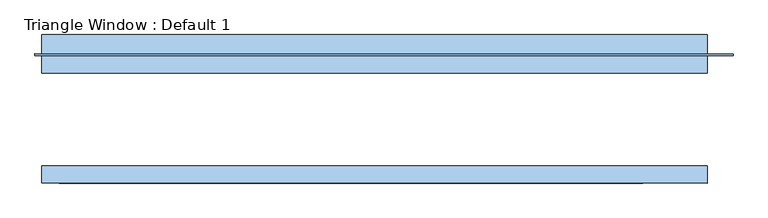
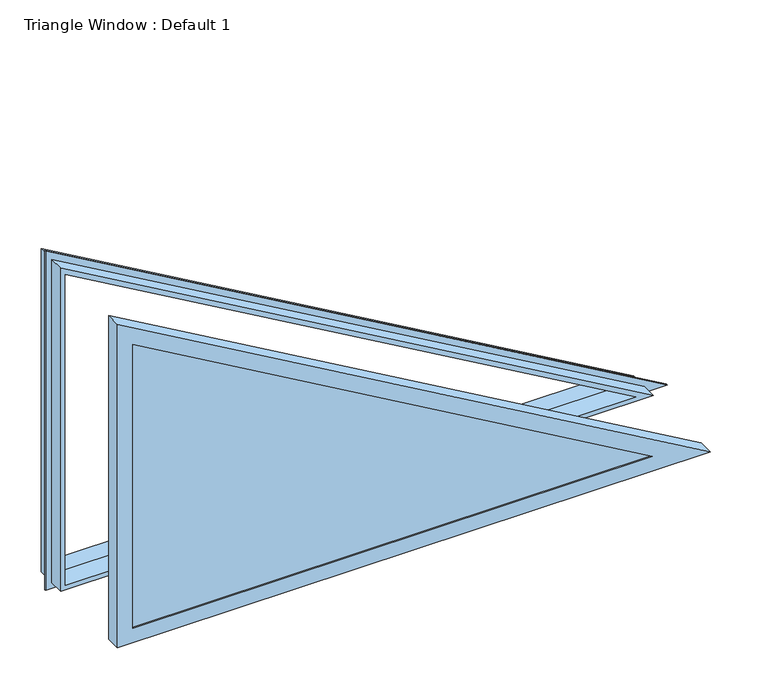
"""IFC4 building model written with IfcOpenShell, lengths in millimetres: window geometry, Triangle Window : Default 1."""

from ifc_helpers import new_model, si_unit, frame, origin, place, context, project, spatial, polyline, outline, extrude, faceted_brep, source, transform, mapped, element, save


def triangle_window_default_1_643964ed(model_context):
    return source(origin(), model_context, "Body", "SolidModel", [
        extrude(outline(polyline([(1563.3128351, -730.25), (946.15, -730.25), (946.15, 338.7073869), (1563.3128351, -730.25)])), frame((0.0, -81.75625, 0.0), z_axis=(0.0, 1.0, 0.0), x_axis=(0.0, 0.0, 1.0)), (0.0, 0.0, 1.0), 3.175),
        extrude(outline(polyline([(1563.3128351, -730.25), (946.15, -730.25), (946.15, 338.7073869), (1563.3128351, -730.25)])), frame((0.0, -59.53125, 0.0), z_axis=(0.0, 1.0, 0.0), x_axis=(0.0, 0.0, 1.0)), (0.0, 0.0, 1.0), 3.175),
        extrude(outline(polyline([(914.4, 457.2), (1618.3054482, -762.0), (914.4, -762.0), (914.4, 457.2)]), holes=[polyline([(946.15, 338.7073869), (946.15, -730.25), (1563.3128351, -730.25), (946.15, 338.7073869)])]), frame((0.0, -84.93125, 0.0), z_axis=(0.0, 1.0, 0.0), x_axis=(0.0, 0.0, 1.0)), (0.0, 0.0, 1.0), 31.75),
        faceted_brep([(-762.0, 187.325, 914.4), (457.2, 187.325, 914.4), (457.2, 152.4, 914.4), (-762.0, 152.4, 914.4), (-762.0, 187.325, 1618.3054482), (-762.0, 152.4, 1618.3054482), (-774.7, 152.4, 1640.3024935), (504.5970453, 152.4, 901.7), (-774.7, 152.4, 901.7), (-742.95, 187.325, 1585.3098803), (-742.95, 187.325, 933.45), (386.1044321, 187.325, 933.45), (386.1044321, 149.225, 933.45), (-742.95, 149.225, 1585.3098803), (-742.95, 149.225, 933.45), (420.6666852, 117.475, 924.1890722), (-752.2109278, 117.475, 1601.3502778), (-752.2109278, 117.475, 924.1890722), (-762.0, 117.475, 1618.3054482), (-762.0, 117.475, 914.4), (457.2, 117.475, 914.4), (457.2, 149.225, 914.4), (-762.0, 149.225, 1618.3054482), (-762.0, 149.225, 914.4), (-774.7, 149.225, 1640.3024935), (-774.7, 149.225, 901.7), (504.5970453, 149.225, 901.7)], [[[0, 1, 2, 3]], [[1, 4, 5, 2]], [[6, 7, 8], [5, 3, 2]], [[4, 1, 0], [9, 10, 11]], [[12, 13, 9, 11]], [[14, 12, 11, 10]], [[13, 14, 10, 9]], [[4, 0, 3, 5]], [[15, 16, 13, 12]], [[17, 15, 12, 14]], [[18, 19, 20], [16, 15, 17]], [[21, 22, 18, 20]], [[23, 21, 20, 19]], [[22, 23, 19, 18]], [[16, 17, 14, 13]], [[24, 25, 26], [22, 21, 23]], [[7, 6, 24, 26]], [[8, 7, 26, 25]], [[6, 8, 25, 24]]]),
    ])


if __name__ == "__main__":
    model = new_model("IFC4")
    model_context = context("Model", 3, world=origin())
    ifc_project = project(units=[si_unit("LENGTHUNIT", "METRE", prefix="MILLI")], contexts=[model_context])
    site = spatial("IfcSite", under=ifc_project)
    building = spatial("IfcBuilding", under=site)
    placement = place(None, origin())
    triangle_window_default_1_shape = triangle_window_default_1_643964ed(model_context)
    element("IfcWindow", 1, ObjectType="Triangle Window : Default 1", at=placement, inside=building, context=model_context, shape_type="MappedRepresentation", body=[
        mapped(triangle_window_default_1_shape, transform((0.0, 0.0, 0.0), x_axis=(1.0, 0.0, 0.0), y_axis=(0.0, 1.0, 0.0), z_axis=(0.0, 0.0, 1.0))),
    ])
    save(model, "model.ifc")
